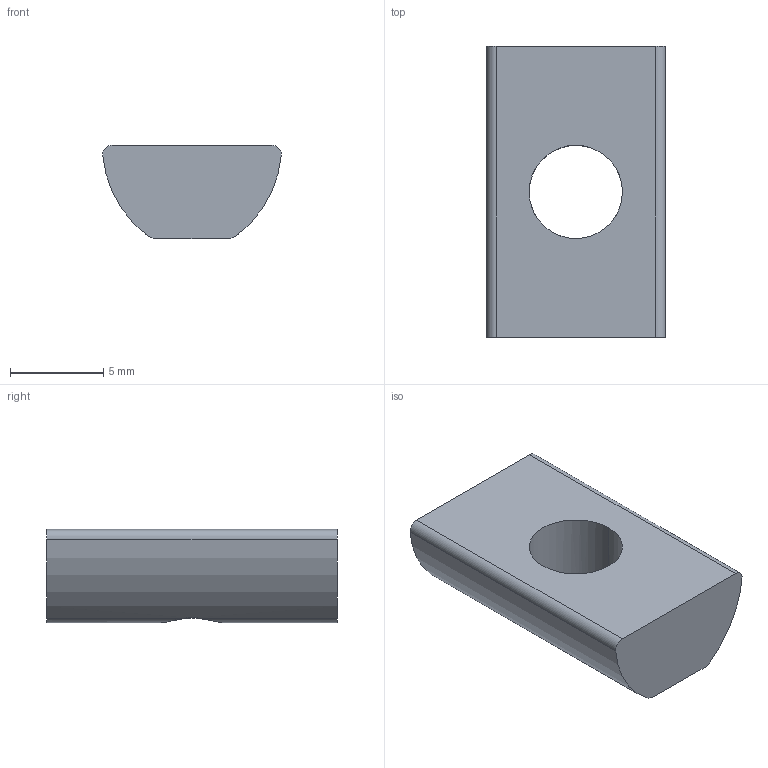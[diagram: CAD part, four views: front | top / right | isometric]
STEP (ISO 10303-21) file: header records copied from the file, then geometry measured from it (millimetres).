
FILE_DESCRIPTION (( 'STEP AP214' ), '1' );
FILE_NAME ('J3M6F.step', '2017-05-24T07:39:31', ( 'admin' ), ( '' ), 'SwSTEP 2.0', 'SolidWorks 2014', '' );
FILE_SCHEMA (( 'AUTOMOTIVE_DESIGN' ));
Length unit declared in the file: millimetre
Products named in the file (1): J3M6F
Bounding box: 9.57 x 15.6 x 5 mm (x, y, z)
Volume: 527.3 mm3; surface area: 511.4 mm2
Topology: 1 solids, 1 shells, 15 faces, 42 edges, 28 vertices
Faces by surface type: cylinder 10, plane 5
Entity records: 568 total; most frequent: CARTESIAN_POINT 118, ORIENTED_EDGE 84, DIRECTION 82, EDGE_CURVE 42, AXIS2_PLACEMENT_3D 32, VERTEX_POINT 28, VECTOR 18, LINE 18
